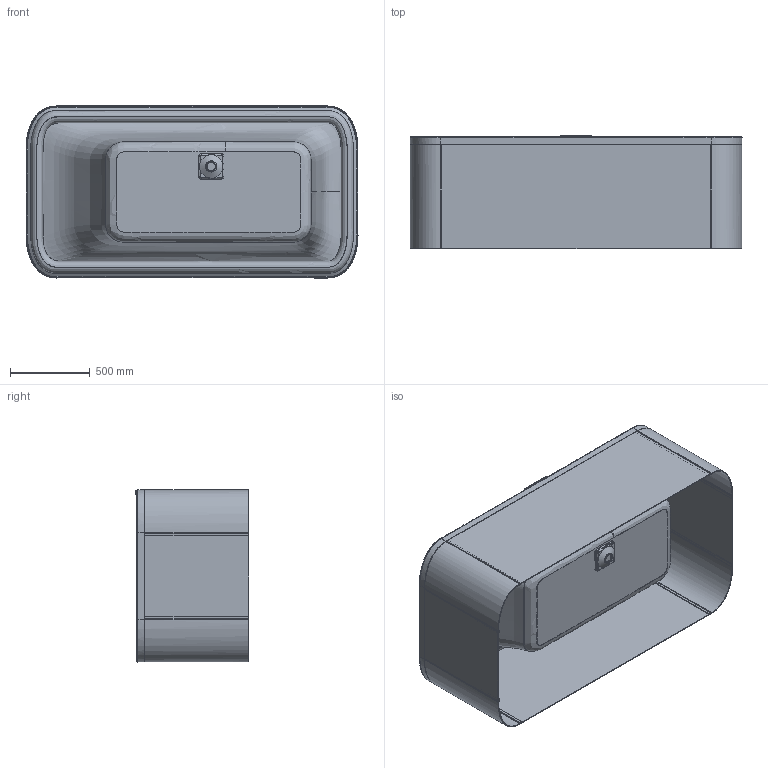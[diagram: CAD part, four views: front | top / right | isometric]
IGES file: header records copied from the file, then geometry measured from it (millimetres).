
Start section: SolidWorks IGES file using analytic representation for surfaces
Global section: file name: D:\Users\M.Szymanski\Desktop\Wanny\ergo-stripe\03. do przegrania\WP_ERGO_kpl_2075x1075.IGS; native system: SolidWorks 2011; preprocessor: SolidWorks 2011; author: M.Szymanski; date: 180920.123126; units: millimetre
Bounding box: 2075 x 709.03 x 1075 mm (x, y, z)
Surface area: 16780354.2 mm2 (no closed solid volume)
Topology: 0 solids, 0 shells, 381 faces, 5851 edges, 6668 vertices
Faces by surface type: bspline 254, revolution 127
